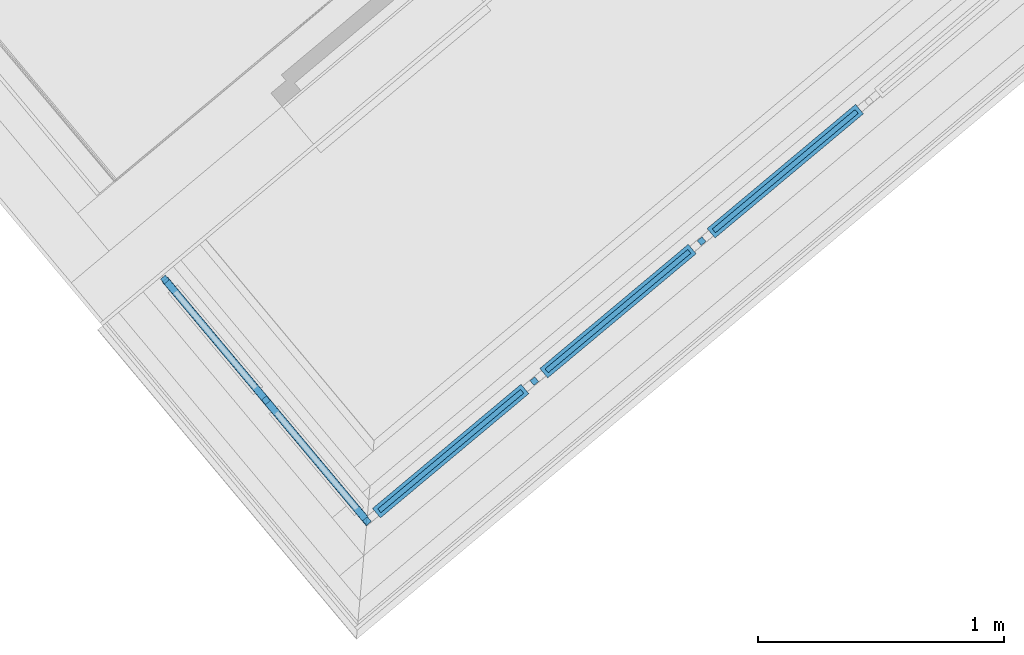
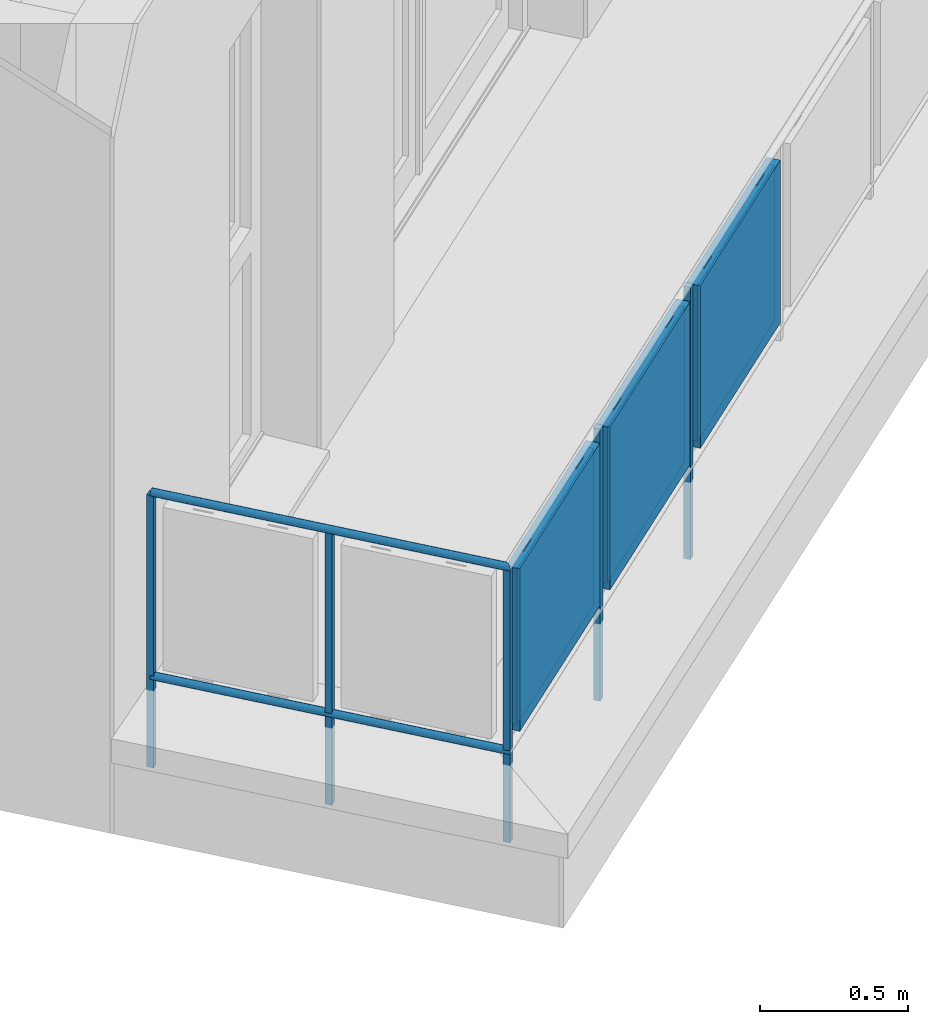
# One storey, part 33 of 50: 13 building element parts, 1 element without a shape of its own.
"""IFC4 building model written with IfcOpenShell, lengths in metres."""

from ifc_helpers import new_model, entity, si_unit, converted_unit, derived_unit, direction, frame, origin_with_axes, place, context, subcontext, project, spatial, polygons, material, type_object, element, aggregate, save


model = new_model("IFC4")

# Units and contexts
model_context = context("Model", 3, precision=1e-05, world=origin_with_axes(), true_north=direction((0.0, 1.0)))
body_context = subcontext(model_context, "Body", "Model", "MODEL_VIEW")
ifc_project = project(units=[si_unit("LENGTHUNIT", "METRE"), si_unit("AREAUNIT", "SQUARE_METRE"), si_unit("VOLUMEUNIT", "CUBIC_METRE"), converted_unit("PLANEANGLEUNIT", "DEGREE", entity("IfcPlaneAngleMeasure", 0.0174532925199), si_unit("PLANEANGLEUNIT", "RADIAN"), dimensions=[0, 0, 0, 0, 0, 0, 0]), converted_unit("TIMEUNIT", "Year", entity("IfcTimeMeasure", 31556926.0), si_unit("TIMEUNIT", "SECOND"), dimensions=[0, 0, 1, 0, 0, 0, 0]), si_unit("MASSUNIT", "GRAM", prefix="KILO"), si_unit("THERMODYNAMICTEMPERATUREUNIT", "DEGREE_CELSIUS"), si_unit("LUMINOUSINTENSITYUNIT", "LUMEN"), si_unit("ENERGYUNIT", "JOULE", prefix="MEGA"), derived_unit("THERMALCONDUCTANCEUNIT", [(si_unit("POWERUNIT", "WATT"), 1), (si_unit("LENGTHUNIT", "METRE"), -1), (si_unit("THERMODYNAMICTEMPERATUREUNIT", "KELVIN"), -1)]), derived_unit("SPECIFICHEATCAPACITYUNIT", [(si_unit("ENERGYUNIT", "JOULE"), 1), (si_unit("MASSUNIT", "GRAM", prefix="KILO"), -1), (si_unit("THERMODYNAMICTEMPERATUREUNIT", "KELVIN"), -1)]), derived_unit("MASSDENSITYUNIT", [(si_unit("MASSUNIT", "GRAM", prefix="KILO"), 1), (si_unit("VOLUMEUNIT", "CUBIC_METRE"), -1)])], contexts=[model_context])

# Site, building, storey, space
site_placement = place(None, frame((-0.00153261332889, -0.00661245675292, 0.0), z_axis=(0.0, 0.0, 1.0), x_axis=(1.0, 0.0, 0.0)))
site = spatial("IfcSite", under=ifc_project, at=site_placement, Name="Gelände", CompositionType="ELEMENT")
building_placement = place(site_placement, origin_with_axes())
building = spatial("IfcBuilding", under=site, at=building_placement, Name="Gebäude", CompositionType="ELEMENT")
storey_placement = place(building_placement, frame((0.0, 0.0, 8.66), z_axis=(0.0, 0.0, 1.0), x_axis=(1.0, 0.0, 0.0)))
storey = spatial("IfcBuildingStorey", under=building, at=storey_placement, Name="DG2", CompositionType="ELEMENT", Elevation=8.66)
space_placement = place(storey_placement, frame((8.90864671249, 17.2360299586, 0.22), z_axis=(0.0, 0.0, 1.0), x_axis=(0.766948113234, 0.641709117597, 0.0)))
space = spatial("IfcSpace", under=storey, at=space_placement, CompositionType="ELEMENT", PredefinedType="NOTDEFINED")

# Railing, building element parts
railing_type = type_object("IfcRailingType", Name="Geländerart", PredefinedType="NOTDEFINED")
railing_placement = place(space_placement, frame((-0.182063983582, 1.04564583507, 0.16), z_axis=(0.0, 0.0, 1.0), x_axis=(0.766948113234, -0.641709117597, 0.0)))
railing = element("IfcRailing", 1, at=railing_placement, inside=space, type_object=railing_type, Name="Geländer - 001", PredefinedType="NOTDEFINED")
ifc_material_1 = material(Name="Aluminium")
building_element_part_1_placement = place(railing_placement, origin_with_axes())
building_element_part_1 = element("IfcBuildingElementPart", 2, at=building_element_part_1_placement, material=ifc_material_1, Name="Aluminium", PredefinedType="NOTDEFINED", context=body_context, shape_type="Tessellation", body=[
    polygons([(-0.0399128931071, -0.0496936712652, -0.3), (-0.0207391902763, -0.0336509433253, -0.3), (-0.0207391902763, -0.0336509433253, 0.82), (-0.0399128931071, -0.0496936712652, 0.82), (-0.0559556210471, -0.0305199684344, -0.3), (-0.0367819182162, -0.0144772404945, -0.3), (-0.0367819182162, -0.0144772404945, 0.82), (-0.0559556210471, -0.0305199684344, 0.82)], [[[1, 2, 3, 4]], [[1, 5, 6, 2]], [[2, 6, 7, 3]], [[4, 3, 7, 8]], [[5, 1, 4, 8]], [[6, 5, 8, 7]]], closed=True),
])
building_element_part_2_placement = place(railing_placement, origin_with_axes())
building_element_part_2 = element("IfcBuildingElementPart", 3, at=building_element_part_2_placement, material=ifc_material_1, Name="Aluminium", PredefinedType="NOTDEFINED", context=body_context, shape_type="Tessellation", body=[
    polygons([(0.780491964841, -1.03021263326, -0.3), (0.799665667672, -1.01416990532, -0.3), (0.799665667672, -1.01416990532, 0.82), (0.780491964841, -1.03021263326, 0.82), (0.764449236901, -1.01103893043, -0.3), (0.783622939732, -0.994996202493, -0.3), (0.783622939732, -0.994996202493, 0.82), (0.764449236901, -1.01103893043, 0.82)], [[[1, 2, 3, 4]], [[1, 5, 6, 2]], [[2, 6, 7, 3]], [[4, 3, 7, 8]], [[5, 1, 4, 8]], [[6, 5, 8, 7]]], closed=True),
])
building_element_part_3_placement = place(railing_placement, origin_with_axes())
building_element_part_3 = element("IfcBuildingElementPart", 4, at=building_element_part_3_placement, material=ifc_material_1, Name="Aluminium", PredefinedType="NOTDEFINED", context=body_context, shape_type="Tessellation", body=[
    polygons([(-0.0268431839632, -0.0224598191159, 0.825), (-0.0270179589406, -0.022606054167, 0.827604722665), (0.783908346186, -0.991796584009, 0.827604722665), (0.783936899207, -0.991475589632, 0.825), (-0.0270179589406, -0.022606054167, 0.822395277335), (-0.0275369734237, -0.0230403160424, 0.81986969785), (-0.02838445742, -0.0237494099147, 0.8175), (-0.0295346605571, -0.0247117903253, 0.815358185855), (-0.0309526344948, -0.0258982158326, 0.813509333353), (-0.0325952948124, -0.0272726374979, 0.812009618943), (-0.0344127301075, -0.0287932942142, 0.810904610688), (-0.0363497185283, -0.0304139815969, 0.810227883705), (-0.0383474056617, -0.0320854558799, 0.81), (-0.0403450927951, -0.0337569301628, 0.810227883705), (-0.0422820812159, -0.0353776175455, 0.810904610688), (-0.0440995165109, -0.0368982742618, 0.812009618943), (-0.0457421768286, -0.0382726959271, 0.813509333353), (-0.0471601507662, -0.0394591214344, 0.815358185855), (-0.0483103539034, -0.040421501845, 0.8175), (-0.0491578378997, -0.0411305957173, 0.81986969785), (-0.0496768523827, -0.0415648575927, 0.822395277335), (-0.0498516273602, -0.0417110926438, 0.825), (-0.0496768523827, -0.0415648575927, 0.827604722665), (-0.0491578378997, -0.0411305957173, 0.83013030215), (-0.0483103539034, -0.040421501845, 0.8325), (-0.0471601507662, -0.0394591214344, 0.834641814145), (-0.0457421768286, -0.0382726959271, 0.836490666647), (-0.0440995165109, -0.0368982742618, 0.837990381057), (-0.0422820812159, -0.0353776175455, 0.839095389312), (-0.0403450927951, -0.0337569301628, 0.839772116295), (-0.0383474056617, -0.0320854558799, 0.84), (-0.0363497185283, -0.0304139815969, 0.839772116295), (-0.0344127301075, -0.0287932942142, 0.839095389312), (-0.0325952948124, -0.0272726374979, 0.837990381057), (-0.0309526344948, -0.0258982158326, 0.836490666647), (-0.0295346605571, -0.0247117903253, 0.834641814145), (-0.02838445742, -0.0237494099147, 0.8325), (-0.0275369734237, -0.0230403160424, 0.83013030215), (0.783823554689, -0.992749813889, 0.83013030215), (0.783685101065, -0.994306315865, 0.8325), (0.783497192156, -0.99641879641, 0.834641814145), (0.78326553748, -0.999023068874, 0.836490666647), (0.782997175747, -1.00204000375, 0.837990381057), (0.782700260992, -1.00537793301, 0.839095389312), (0.782383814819, -1.00893543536, 0.839772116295), (0.782057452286, -1.01260441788, 0.84), (0.781731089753, -1.0162734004, 0.839772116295), (0.781414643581, -1.01983090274, 0.839095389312), (0.781117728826, -1.023168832, 0.837990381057), (0.780849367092, -1.02618576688, 0.836490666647), (0.780617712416, -1.02879003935, 0.834641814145), (0.780429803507, -1.03090251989, 0.8325), (0.780291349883, -1.03245902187, 0.83013030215), (0.780206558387, -1.03341225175, 0.827604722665), (0.780178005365, -1.03373324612, 0.825), (0.780206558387, -1.03341225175, 0.822395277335), (0.780291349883, -1.03245902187, 0.81986969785), (0.780429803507, -1.03090251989, 0.8175), (0.780617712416, -1.02879003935, 0.815358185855), (0.780849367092, -1.02618576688, 0.813509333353), (0.781117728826, -1.023168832, 0.812009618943), (0.781414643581, -1.01983090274, 0.810904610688), (0.781731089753, -1.0162734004, 0.810227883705), (0.782057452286, -1.01260441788, 0.81), (0.782383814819, -1.00893543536, 0.810227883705), (0.782700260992, -1.00537793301, 0.810904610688), (0.782997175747, -1.00204000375, 0.812009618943), (0.78326553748, -0.999023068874, 0.813509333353), (0.783497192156, -0.99641879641, 0.815358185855), (0.783685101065, -0.994306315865, 0.8175), (0.783823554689, -0.992749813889, 0.81986969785), (0.783908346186, -0.991796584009, 0.822395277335)], [[[1, 2, 3, 4]], [[1, 5, 6, 7, 8, 9, 10, 11, 12, 13, 14, 15, 16, 17, 18, 19, 20, 21, 22, 23, 24, 25, 26, 27, 28, 29, 30, 31, 32, 33, 34, 35, 36, 37, 38, 2]], [[2, 38, 39, 3]], [[4, 3, 39, 40, 41, 42, 43, 44, 45, 46, 47, 48, 49, 50, 51, 52, 53, 54, 55, 56, 57, 58, 59, 60, 61, 62, 63, 64, 65, 66, 67, 68, 69, 70, 71, 72]], [[5, 1, 4, 72]], [[6, 5, 72, 71]], [[7, 6, 71, 70]], [[8, 7, 70, 69]], [[9, 8, 69, 68]], [[10, 9, 68, 67]], [[11, 10, 67, 66]], [[12, 11, 66, 65]], [[13, 12, 65, 64]], [[14, 13, 64, 63]], [[15, 14, 63, 62]], [[16, 15, 62, 61]], [[17, 16, 61, 60]], [[18, 17, 60, 59]], [[19, 18, 59, 58]], [[20, 19, 58, 57]], [[21, 20, 57, 56]], [[22, 21, 56, 55]], [[23, 22, 55, 54]], [[24, 23, 54, 53]], [[25, 24, 53, 52]], [[26, 25, 52, 51]], [[27, 26, 51, 50]], [[28, 27, 50, 49]], [[29, 28, 49, 48]], [[30, 29, 48, 47]], [[31, 30, 47, 46]], [[32, 31, 46, 45]], [[33, 32, 45, 44]], [[34, 33, 44, 43]], [[35, 34, 43, 42]], [[36, 35, 42, 41]], [[37, 36, 41, 40]], [[38, 37, 40, 39]]], closed=True),
])
building_element_part_4_placement = place(railing_placement, origin_with_axes())
building_element_part_4 = element("IfcBuildingElementPart", 5, at=building_element_part_4_placement, material=ifc_material_1, Name="Aluminium", PredefinedType="NOTDEFINED", context=body_context, shape_type="Tessellation", body=[
    polygons([(-0.0268431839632, -0.0224598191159, 0.07), (-0.0270179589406, -0.022606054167, 0.072604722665), (0.783908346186, -0.991796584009, 0.072604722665), (0.783936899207, -0.991475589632, 0.07), (-0.0270179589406, -0.022606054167, 0.067395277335), (-0.0275369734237, -0.0230403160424, 0.0648696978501), (-0.02838445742, -0.0237494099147, 0.0625), (-0.0295346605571, -0.0247117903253, 0.0603581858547), (-0.0309526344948, -0.0258982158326, 0.0585093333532), (-0.0325952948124, -0.0272726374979, 0.0570096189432), (-0.0344127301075, -0.0287932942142, 0.0559046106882), (-0.0363497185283, -0.0304139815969, 0.0552278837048), (-0.0383474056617, -0.0320854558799, 0.055), (-0.0403450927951, -0.0337569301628, 0.0552278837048), (-0.0422820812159, -0.0353776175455, 0.0559046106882), (-0.0440995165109, -0.0368982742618, 0.0570096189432), (-0.0457421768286, -0.0382726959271, 0.0585093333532), (-0.0471601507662, -0.0394591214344, 0.0603581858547), (-0.0483103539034, -0.040421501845, 0.0625), (-0.0491578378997, -0.0411305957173, 0.0648696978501), (-0.0496768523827, -0.0415648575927, 0.067395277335), (-0.0498516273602, -0.0417110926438, 0.07), (-0.0496768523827, -0.0415648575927, 0.072604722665), (-0.0491578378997, -0.0411305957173, 0.0751303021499), (-0.0483103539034, -0.040421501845, 0.0775), (-0.0471601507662, -0.0394591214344, 0.0796418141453), (-0.0457421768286, -0.0382726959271, 0.0814906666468), (-0.0440995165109, -0.0368982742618, 0.0829903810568), (-0.0422820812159, -0.0353776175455, 0.0840953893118), (-0.0403450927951, -0.0337569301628, 0.0847721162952), (-0.0383474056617, -0.0320854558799, 0.085), (-0.0363497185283, -0.0304139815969, 0.0847721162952), (-0.0344127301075, -0.0287932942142, 0.0840953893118), (-0.0325952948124, -0.0272726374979, 0.0829903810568), (-0.0309526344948, -0.0258982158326, 0.0814906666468), (-0.0295346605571, -0.0247117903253, 0.0796418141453), (-0.02838445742, -0.0237494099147, 0.0775), (-0.0275369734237, -0.0230403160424, 0.0751303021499), (0.783823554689, -0.992749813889, 0.0751303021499), (0.783685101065, -0.994306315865, 0.0775), (0.783497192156, -0.99641879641, 0.0796418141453), (0.78326553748, -0.999023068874, 0.0814906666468), (0.782997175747, -1.00204000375, 0.0829903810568), (0.782700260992, -1.00537793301, 0.0840953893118), (0.782383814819, -1.00893543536, 0.0847721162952), (0.782057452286, -1.01260441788, 0.085), (0.781731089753, -1.0162734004, 0.0847721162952), (0.781414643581, -1.01983090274, 0.0840953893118), (0.781117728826, -1.023168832, 0.0829903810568), (0.780849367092, -1.02618576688, 0.0814906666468), (0.780617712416, -1.02879003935, 0.0796418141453), (0.780429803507, -1.03090251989, 0.0775), (0.780291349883, -1.03245902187, 0.0751303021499), (0.780206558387, -1.03341225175, 0.072604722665), (0.780178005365, -1.03373324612, 0.07), (0.780206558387, -1.03341225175, 0.067395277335), (0.780291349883, -1.03245902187, 0.0648696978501), (0.780429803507, -1.03090251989, 0.0625), (0.780617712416, -1.02879003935, 0.0603581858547), (0.780849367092, -1.02618576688, 0.0585093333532), (0.781117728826, -1.023168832, 0.0570096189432), (0.781414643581, -1.01983090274, 0.0559046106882), (0.781731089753, -1.0162734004, 0.0552278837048), (0.782057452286, -1.01260441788, 0.055), (0.782383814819, -1.00893543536, 0.0552278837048), (0.782700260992, -1.00537793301, 0.0559046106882), (0.782997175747, -1.00204000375, 0.0570096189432), (0.78326553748, -0.999023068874, 0.0585093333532), (0.783497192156, -0.99641879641, 0.0603581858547), (0.783685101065, -0.994306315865, 0.0625), (0.783823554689, -0.992749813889, 0.0648696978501), (0.783908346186, -0.991796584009, 0.067395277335)], [[[1, 2, 3, 4]], [[1, 5, 6, 7, 8, 9, 10, 11, 12, 13, 14, 15, 16, 17, 18, 19, 20, 21, 22, 23, 24, 25, 26, 27, 28, 29, 30, 31, 32, 33, 34, 35, 36, 37, 38, 2]], [[2, 38, 39, 3]], [[4, 3, 39, 40, 41, 42, 43, 44, 45, 46, 47, 48, 49, 50, 51, 52, 53, 54, 55, 56, 57, 58, 59, 60, 61, 62, 63, 64, 65, 66, 67, 68, 69, 70, 71, 72]], [[5, 1, 4, 72]], [[6, 5, 72, 71]], [[7, 6, 71, 70]], [[8, 7, 70, 69]], [[9, 8, 69, 68]], [[10, 9, 68, 67]], [[11, 10, 67, 66]], [[12, 11, 66, 65]], [[13, 12, 65, 64]], [[14, 13, 64, 63]], [[15, 14, 63, 62]], [[16, 15, 62, 61]], [[17, 16, 61, 60]], [[18, 17, 60, 59]], [[19, 18, 59, 58]], [[20, 19, 58, 57]], [[21, 20, 57, 56]], [[22, 21, 56, 55]], [[23, 22, 55, 54]], [[24, 23, 54, 53]], [[25, 24, 53, 52]], [[26, 25, 52, 51]], [[27, 26, 51, 50]], [[28, 27, 50, 49]], [[29, 28, 49, 48]], [[30, 29, 48, 47]], [[31, 30, 47, 46]], [[32, 31, 46, 45]], [[33, 32, 45, 44]], [[34, 33, 44, 43]], [[35, 34, 43, 42]], [[36, 35, 42, 41]], [[37, 36, 41, 40]], [[38, 37, 40, 39]]], closed=True),
])
building_element_part_5_placement = place(railing_placement, origin_with_axes())
building_element_part_5 = element("IfcBuildingElementPart", 6, at=building_element_part_5_placement, material=ifc_material_1, Name="Aluminium", PredefinedType="NOTDEFINED", context=body_context, shape_type="Tessellation", body=[
    polygons([(0.370289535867, -0.539953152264, -0.3), (0.389463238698, -0.523910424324, -0.3), (0.389463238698, -0.523910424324, 0.82), (0.370289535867, -0.539953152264, 0.82), (0.354246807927, -0.520779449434, -0.3), (0.373420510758, -0.504736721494, -0.3), (0.373420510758, -0.504736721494, 0.82), (0.354246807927, -0.520779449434, 0.82)], [[[1, 2, 3, 4]], [[1, 5, 6, 2]], [[2, 6, 7, 3]], [[4, 3, 7, 8]], [[5, 1, 4, 8]], [[6, 5, 8, 7]]], closed=True),
])
ifc_material_2 = material(Name="Profilit")
building_element_part_6_placement = place(railing_placement, origin_with_axes())
building_element_part_6 = element("IfcBuildingElementPart", 7, at=building_element_part_6_placement, material=ifc_material_2, Name="Profilit", PredefinedType="NOTDEFINED", context=body_context, shape_type="Tessellation", body=[
    polygons([(1.40482811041, -0.478586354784, 0.135), (0.82549641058, -0.963227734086, 0.135), (0.82549641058, -0.963227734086, 0.775), (1.40482811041, -0.478586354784, 0.775), (0.838329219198, -0.978567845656, 0.135), (1.41766091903, -0.493926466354, 0.135), (0.838329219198, -0.978567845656, 0.775), (1.41766091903, -0.493926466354, 0.775)], [[[1, 2, 3, 4]], [[5, 2, 1, 6]], [[7, 3, 2, 5]], [[4, 3, 7, 8]], [[1, 4, 8, 6]], [[7, 5, 6, 8]]], closed=True),
])
building_element_part_7_placement = place(railing_placement, origin_with_axes())
building_element_part_7 = element("IfcBuildingElementPart", 8, at=building_element_part_7_placement, material=ifc_material_1, Name="Aluminium", PredefinedType="NOTDEFINED", context=body_context, shape_type="Tessellation", body=[
    polygons([(0.895504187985, -0.9144408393, 0.12), (0.949194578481, -0.869526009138, 0.12), (0.949194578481, -0.869526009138, 0.095), (0.895504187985, -0.9144408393, 0.095), (0.89871239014, -0.918275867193, 0.12), (0.952402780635, -0.873361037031, 0.12), (0.952402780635, -0.873361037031, 0.095), (0.89871239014, -0.918275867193, 0.095)], [[[1, 2, 3, 4]], [[5, 6, 2, 1]], [[2, 6, 7, 3]], [[4, 3, 7, 8]], [[1, 4, 8, 5]], [[8, 7, 6, 5]]], closed=True),
    polygons([(1.29075454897, -0.583793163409, 0.12), (1.34444493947, -0.538878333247, 0.12), (1.34444493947, -0.538878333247, 0.095), (1.29075454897, -0.583793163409, 0.095), (1.29396275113, -0.587628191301, 0.12), (1.34765314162, -0.54271336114, 0.12), (1.34765314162, -0.54271336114, 0.095), (1.29396275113, -0.587628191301, 0.095)], [[[1, 2, 3, 4]], [[5, 6, 2, 1]], [[2, 6, 7, 3]], [[4, 3, 7, 8]], [[1, 4, 8, 5]], [[8, 7, 6, 5]]], closed=True),
    polygons([(1.34444493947, -0.538878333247, 0.79), (1.29075454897, -0.583793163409, 0.79), (1.29075454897, -0.583793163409, 0.795), (1.34444493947, -0.538878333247, 0.795), (1.34765314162, -0.54271336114, 0.79), (1.29396275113, -0.587628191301, 0.79), (1.29396275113, -0.587628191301, 0.795), (1.34765314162, -0.54271336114, 0.795)], [[[1, 2, 3, 4]], [[5, 6, 2, 1]], [[2, 6, 7, 3]], [[4, 3, 7, 8]], [[1, 4, 8, 5]], [[8, 7, 6, 5]]], closed=True),
    polygons([(0.949194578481, -0.869526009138, 0.79), (0.895504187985, -0.9144408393, 0.79), (0.895504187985, -0.9144408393, 0.795), (0.949194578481, -0.869526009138, 0.795), (0.952402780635, -0.873361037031, 0.79), (0.89871239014, -0.918275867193, 0.79), (0.89871239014, -0.918275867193, 0.795), (0.952402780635, -0.873361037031, 0.795)], [[[1, 2, 3, 4]], [[5, 6, 2, 1]], [[2, 6, 7, 3]], [[4, 3, 7, 8]], [[1, 4, 8, 5]], [[8, 7, 6, 5]]], closed=True),
    polygons([(0.836448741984, -0.999697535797, 0.12), (0.80436672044, -0.961347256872, 0.12), (1.40670858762, -0.457456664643, 0.12), (1.43879060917, -0.495806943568, 0.12), (0.851788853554, -0.986864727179, 0.14), (0.842164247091, -0.975359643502, 0.14), (0.838329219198, -0.978567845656, 0.135), (0.82549641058, -0.963227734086, 0.135), (0.829331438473, -0.960019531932, 0.14), (0.81970683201, -0.948514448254, 0.14), (1.39136847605, -0.470289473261, 0.14), (1.39136847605, -0.470289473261, 0.77), (0.81970683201, -0.948514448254, 0.77), (0.81970683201, -0.948514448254, 0.14), (0.80436672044, -0.961347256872, 0.12), (0.80436672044, -0.961347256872, 0.79), (1.40670858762, -0.457456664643, 0.79), (1.43879060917, -0.495806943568, 0.79), (0.836448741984, -0.999697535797, 0.79), (0.836448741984, -0.999697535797, 0.12), (0.851788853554, -0.986864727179, 0.14), (0.851788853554, -0.986864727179, 0.77), (1.4234504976, -0.508639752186, 0.77), (1.4234504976, -0.508639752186, 0.14), (1.41382589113, -0.497134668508, 0.14), (1.41382589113, -0.497134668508, 0.77), (0.842164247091, -0.975359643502, 0.77), (0.842164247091, -0.975359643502, 0.14), (0.838329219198, -0.978567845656, 0.135), (0.838329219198, -0.978567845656, 0.775), (1.41766091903, -0.493926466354, 0.775), (1.41766091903, -0.493926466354, 0.135), (1.40482811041, -0.478586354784, 0.135), (1.40482811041, -0.478586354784, 0.775), (0.82549641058, -0.963227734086, 0.775), (0.82549641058, -0.963227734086, 0.135), (0.829331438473, -0.960019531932, 0.14), (0.829331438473, -0.960019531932, 0.77), (1.40099308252, -0.481794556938, 0.77), (1.40099308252, -0.481794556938, 0.14)], [[[1, 2, 3, 4]], [[1, 5, 6, 7, 8, 9, 10, 2]], [[2, 10, 11, 12, 13, 14, 15, 16, 17, 3]], [[4, 3, 17, 18]], [[5, 1, 4, 18, 19, 20, 21, 22, 23, 24]], [[6, 5, 24, 25]], [[7, 6, 25, 26, 27, 28, 29, 30, 31, 32]], [[8, 7, 32, 33]], [[9, 8, 33, 34, 35, 36, 37, 38, 39, 40]], [[10, 9, 40, 11]], [[11, 40, 39, 12]], [[12, 39, 38, 13]], [[13, 38, 37, 14]], [[20, 15, 14, 37, 36, 29, 28, 21]], [[19, 16, 15, 20]], [[18, 17, 16, 19]], [[27, 22, 21, 28]], [[26, 23, 22, 27]], [[25, 24, 23, 26]], [[35, 30, 29, 36]], [[34, 31, 30, 35]], [[33, 32, 31, 34]]], closed=True),
])
building_element_part_8_placement = place(railing_placement, origin_with_axes())
building_element_part_8 = element("IfcBuildingElementPart", 9, at=building_element_part_8_placement, material=ifc_material_1, Name="Aluminium", PredefinedType="NOTDEFINED", context=body_context, shape_type="Tessellation", body=[
    polygons([(1.47870795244, -0.446116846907, -0.3), (1.46266694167, -0.426941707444, -0.3), (1.46266694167, -0.426941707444, 0.82), (1.47870795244, -0.446116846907, 0.82), (1.45953281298, -0.462157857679, -0.3), (1.4434918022, -0.442982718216, -0.3), (1.4434918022, -0.442982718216, 0.82), (1.45953281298, -0.462157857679, 0.82)], [[[1, 2, 3, 4]], [[1, 5, 6, 2]], [[2, 6, 7, 3]], [[4, 3, 7, 8]], [[5, 1, 4, 8]], [[6, 5, 8, 7]]], closed=True),
])
building_element_part_9_placement = place(railing_placement, origin_with_axes())
building_element_part_9 = element("IfcBuildingElementPart", 10, at=building_element_part_9_placement, material=ifc_material_2, Name="Profilit", PredefinedType="NOTDEFINED", context=body_context, shape_type="Tessellation", body=[
    polygons([(2.08387053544, 0.0894682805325, 0.135), (1.50453883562, -0.39517309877, 0.135), (1.50453883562, -0.39517309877, 0.775), (2.08387053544, 0.0894682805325, 0.775), (1.51737164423, -0.41051321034, 0.135), (2.09670334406, 0.0741281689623, 0.135), (1.51737164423, -0.41051321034, 0.775), (2.09670334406, 0.0741281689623, 0.775)], [[[1, 2, 3, 4]], [[5, 2, 1, 6]], [[7, 3, 2, 5]], [[4, 3, 7, 8]], [[1, 4, 8, 6]], [[7, 5, 6, 8]]], closed=True),
])
building_element_part_10_placement = place(railing_placement, origin_with_axes())
building_element_part_10 = element("IfcBuildingElementPart", 11, at=building_element_part_10_placement, material=ifc_material_1, Name="Aluminium", PredefinedType="NOTDEFINED", context=body_context, shape_type="Tessellation", body=[
    polygons([(1.57454661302, -0.346386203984, 0.12), (1.62823700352, -0.301471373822, 0.12), (1.62823700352, -0.301471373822, 0.095), (1.57454661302, -0.346386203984, 0.095), (1.57775481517, -0.350221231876, 0.12), (1.63144520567, -0.305306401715, 0.12), (1.63144520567, -0.305306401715, 0.095), (1.57775481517, -0.350221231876, 0.095)], [[[1, 2, 3, 4]], [[5, 6, 2, 1]], [[2, 6, 7, 3]], [[4, 3, 7, 8]], [[1, 4, 8, 5]], [[8, 7, 6, 5]]], closed=True),
    polygons([(1.96979697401, -0.0157385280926, 0.12), (2.0234873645, 0.0291763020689, 0.12), (2.0234873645, 0.0291763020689, 0.095), (1.96979697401, -0.0157385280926, 0.095), (1.97300517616, -0.0195735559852, 0.12), (2.02669556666, 0.0253412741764, 0.12), (2.02669556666, 0.0253412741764, 0.095), (1.97300517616, -0.0195735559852, 0.095)], [[[1, 2, 3, 4]], [[5, 6, 2, 1]], [[2, 6, 7, 3]], [[4, 3, 7, 8]], [[1, 4, 8, 5]], [[8, 7, 6, 5]]], closed=True),
    polygons([(2.0234873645, 0.0291763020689, 0.79), (1.96979697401, -0.0157385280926, 0.79), (1.96979697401, -0.0157385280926, 0.795), (2.0234873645, 0.0291763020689, 0.795), (2.02669556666, 0.0253412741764, 0.79), (1.97300517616, -0.0195735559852, 0.79), (1.97300517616, -0.0195735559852, 0.795), (2.02669556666, 0.0253412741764, 0.795)], [[[1, 2, 3, 4]], [[5, 6, 2, 1]], [[2, 6, 7, 3]], [[4, 3, 7, 8]], [[1, 4, 8, 5]], [[8, 7, 6, 5]]], closed=True),
    polygons([(1.62823700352, -0.301471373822, 0.79), (1.57454661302, -0.346386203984, 0.79), (1.57454661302, -0.346386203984, 0.795), (1.62823700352, -0.301471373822, 0.795), (1.63144520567, -0.305306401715, 0.79), (1.57775481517, -0.350221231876, 0.79), (1.57775481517, -0.350221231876, 0.795), (1.63144520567, -0.305306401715, 0.795)], [[[1, 2, 3, 4]], [[5, 6, 2, 1]], [[2, 6, 7, 3]], [[4, 3, 7, 8]], [[1, 4, 8, 5]], [[8, 7, 6, 5]]], closed=True),
    polygons([(1.51549116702, -0.431642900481, 0.12), (1.48340914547, -0.393292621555, 0.12), (2.08575101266, 0.110597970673, 0.12), (2.1178330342, 0.0722476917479, 0.12), (1.53083127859, -0.418810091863, 0.14), (1.52120667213, -0.407305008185, 0.14), (1.51737164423, -0.41051321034, 0.135), (1.50453883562, -0.39517309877, 0.135), (1.50837386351, -0.391964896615, 0.14), (1.49874925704, -0.380459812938, 0.14), (2.07041090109, 0.0977651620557, 0.14), (2.07041090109, 0.0977651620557, 0.77), (1.49874925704, -0.380459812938, 0.77), (1.49874925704, -0.380459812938, 0.14), (1.48340914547, -0.393292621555, 0.12), (1.48340914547, -0.393292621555, 0.79), (2.08575101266, 0.110597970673, 0.79), (2.1178330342, 0.0722476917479, 0.79), (1.51549116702, -0.431642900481, 0.79), (1.51549116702, -0.431642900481, 0.12), (1.53083127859, -0.418810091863, 0.14), (1.53083127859, -0.418810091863, 0.77), (2.10249292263, 0.0594148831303, 0.77), (2.10249292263, 0.0594148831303, 0.14), (2.09286831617, 0.0709199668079, 0.14), (2.09286831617, 0.0709199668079, 0.77), (1.52120667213, -0.407305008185, 0.77), (1.52120667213, -0.407305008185, 0.14), (1.51737164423, -0.41051321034, 0.135), (1.51737164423, -0.41051321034, 0.775), (2.09670334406, 0.0741281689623, 0.775), (2.09670334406, 0.0741281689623, 0.135), (2.08387053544, 0.0894682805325, 0.135), (2.08387053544, 0.0894682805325, 0.775), (1.50453883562, -0.39517309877, 0.775), (1.50453883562, -0.39517309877, 0.135), (1.50837386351, -0.391964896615, 0.14), (1.50837386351, -0.391964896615, 0.77), (2.08003550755, 0.0862600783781, 0.77), (2.08003550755, 0.0862600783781, 0.14)], [[[1, 2, 3, 4]], [[1, 5, 6, 7, 8, 9, 10, 2]], [[2, 10, 11, 12, 13, 14, 15, 16, 17, 3]], [[4, 3, 17, 18]], [[5, 1, 4, 18, 19, 20, 21, 22, 23, 24]], [[6, 5, 24, 25]], [[7, 6, 25, 26, 27, 28, 29, 30, 31, 32]], [[8, 7, 32, 33]], [[9, 8, 33, 34, 35, 36, 37, 38, 39, 40]], [[10, 9, 40, 11]], [[11, 40, 39, 12]], [[12, 39, 38, 13]], [[13, 38, 37, 14]], [[20, 15, 14, 37, 36, 29, 28, 21]], [[19, 16, 15, 20]], [[18, 17, 16, 19]], [[27, 22, 21, 28]], [[26, 23, 22, 27]], [[25, 24, 23, 26]], [[35, 30, 29, 36]], [[34, 31, 30, 35]], [[33, 32, 31, 34]]], closed=True),
])
building_element_part_11_placement = place(railing_placement, origin_with_axes())
building_element_part_11 = element("IfcBuildingElementPart", 12, at=building_element_part_11_placement, material=ifc_material_1, Name="Aluminium", PredefinedType="NOTDEFINED", context=body_context, shape_type="Tessellation", body=[
    polygons([(2.15775037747, 0.121937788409, -0.3), (2.1417093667, 0.141112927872, -0.3), (2.1417093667, 0.141112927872, 0.82), (2.15775037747, 0.121937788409, 0.82), (2.13857523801, 0.105896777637, -0.3), (2.12253422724, 0.1250719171, -0.3), (2.12253422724, 0.1250719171, 0.82), (2.13857523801, 0.105896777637, 0.82)], [[[1, 2, 3, 4]], [[1, 5, 6, 2]], [[2, 6, 7, 3]], [[4, 3, 7, 8]], [[5, 1, 4, 8]], [[6, 5, 8, 7]]], closed=True),
])
building_element_part_12_placement = place(railing_placement, origin_with_axes())
building_element_part_12 = element("IfcBuildingElementPart", 13, at=building_element_part_12_placement, material=ifc_material_2, Name="Profilit", PredefinedType="NOTDEFINED", context=body_context, shape_type="Tessellation", body=[
    polygons([(2.76291296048, 0.657522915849, 0.135), (2.18358126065, 0.172881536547, 0.135), (2.18358126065, 0.172881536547, 0.775), (2.76291296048, 0.657522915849, 0.775), (2.19641406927, 0.157541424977, 0.135), (2.7757457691, 0.642182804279, 0.135), (2.19641406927, 0.157541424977, 0.775), (2.7757457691, 0.642182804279, 0.775)], [[[1, 2, 3, 4]], [[5, 2, 1, 6]], [[7, 3, 2, 5]], [[4, 3, 7, 8]], [[1, 4, 8, 6]], [[7, 5, 6, 8]]], closed=True),
])
building_element_part_13_placement = place(railing_placement, origin_with_axes())
building_element_part_13 = element("IfcBuildingElementPart", 14, at=building_element_part_13_placement, material=ifc_material_1, Name="Aluminium", PredefinedType="NOTDEFINED", context=body_context, shape_type="Tessellation", body=[
    polygons([(2.25358903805, 0.221668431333, 0.12), (2.30727942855, 0.266583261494, 0.12), (2.30727942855, 0.266583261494, 0.095), (2.25358903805, 0.221668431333, 0.095), (2.25679724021, 0.21783340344, 0.12), (2.3104876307, 0.262748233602, 0.12), (2.3104876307, 0.262748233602, 0.095), (2.25679724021, 0.21783340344, 0.095)], [[[1, 2, 3, 4]], [[5, 6, 2, 1]], [[2, 6, 7, 3]], [[4, 3, 7, 8]], [[1, 4, 8, 5]], [[8, 7, 6, 5]]], closed=True),
    polygons([(2.64883939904, 0.552316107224, 0.12), (2.70252978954, 0.597230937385, 0.12), (2.70252978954, 0.597230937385, 0.095), (2.64883939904, 0.552316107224, 0.095), (2.6520476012, 0.548481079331, 0.12), (2.70573799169, 0.593395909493, 0.12), (2.70573799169, 0.593395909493, 0.095), (2.6520476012, 0.548481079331, 0.095)], [[[1, 2, 3, 4]], [[5, 6, 2, 1]], [[2, 6, 7, 3]], [[4, 3, 7, 8]], [[1, 4, 8, 5]], [[8, 7, 6, 5]]], closed=True),
    polygons([(2.70252978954, 0.597230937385, 0.79), (2.64883939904, 0.552316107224, 0.79), (2.64883939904, 0.552316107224, 0.795), (2.70252978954, 0.597230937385, 0.795), (2.70573799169, 0.593395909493, 0.79), (2.6520476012, 0.548481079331, 0.79), (2.6520476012, 0.548481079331, 0.795), (2.70573799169, 0.593395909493, 0.795)], [[[1, 2, 3, 4]], [[5, 6, 2, 1]], [[2, 6, 7, 3]], [[4, 3, 7, 8]], [[1, 4, 8, 5]], [[8, 7, 6, 5]]], closed=True),
    polygons([(2.30727942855, 0.266583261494, 0.79), (2.25358903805, 0.221668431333, 0.79), (2.25358903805, 0.221668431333, 0.795), (2.30727942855, 0.266583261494, 0.795), (2.3104876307, 0.262748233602, 0.79), (2.25679724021, 0.21783340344, 0.79), (2.25679724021, 0.21783340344, 0.795), (2.3104876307, 0.262748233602, 0.795)], [[[1, 2, 3, 4]], [[5, 6, 2, 1]], [[2, 6, 7, 3]], [[4, 3, 7, 8]], [[1, 4, 8, 5]], [[8, 7, 6, 5]]], closed=True),
    polygons([(2.19453359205, 0.136411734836, 0.12), (2.16245157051, 0.174762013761, 0.12), (2.76479343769, 0.67865260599, 0.12), (2.79687545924, 0.640302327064, 0.12), (2.20987370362, 0.149244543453, 0.14), (2.20024909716, 0.160749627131, 0.14), (2.19641406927, 0.157541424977, 0.135), (2.18358126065, 0.172881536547, 0.135), (2.18741628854, 0.176089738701, 0.14), (2.17779168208, 0.187594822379, 0.14), (2.74945332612, 0.665819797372, 0.14), (2.74945332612, 0.665819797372, 0.77), (2.17779168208, 0.187594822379, 0.77), (2.17779168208, 0.187594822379, 0.14), (2.16245157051, 0.174762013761, 0.12), (2.16245157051, 0.174762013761, 0.79), (2.76479343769, 0.67865260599, 0.79), (2.79687545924, 0.640302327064, 0.79), (2.19453359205, 0.136411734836, 0.79), (2.19453359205, 0.136411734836, 0.12), (2.20987370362, 0.149244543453, 0.14), (2.20987370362, 0.149244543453, 0.77), (2.78153534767, 0.627469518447, 0.77), (2.78153534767, 0.627469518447, 0.14), (2.7719107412, 0.638974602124, 0.14), (2.7719107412, 0.638974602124, 0.77), (2.20024909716, 0.160749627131, 0.77), (2.20024909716, 0.160749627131, 0.14), (2.19641406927, 0.157541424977, 0.135), (2.19641406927, 0.157541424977, 0.775), (2.7757457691, 0.642182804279, 0.775), (2.7757457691, 0.642182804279, 0.135), (2.76291296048, 0.657522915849, 0.135), (2.76291296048, 0.657522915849, 0.775), (2.18358126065, 0.172881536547, 0.775), (2.18358126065, 0.172881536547, 0.135), (2.18741628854, 0.176089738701, 0.14), (2.18741628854, 0.176089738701, 0.77), (2.75907793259, 0.654314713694, 0.77), (2.75907793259, 0.654314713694, 0.14)], [[[1, 2, 3, 4]], [[1, 5, 6, 7, 8, 9, 10, 2]], [[2, 10, 11, 12, 13, 14, 15, 16, 17, 3]], [[4, 3, 17, 18]], [[5, 1, 4, 18, 19, 20, 21, 22, 23, 24]], [[6, 5, 24, 25]], [[7, 6, 25, 26, 27, 28, 29, 30, 31, 32]], [[8, 7, 32, 33]], [[9, 8, 33, 34, 35, 36, 37, 38, 39, 40]], [[10, 9, 40, 11]], [[11, 40, 39, 12]], [[12, 39, 38, 13]], [[13, 38, 37, 14]], [[20, 15, 14, 37, 36, 29, 28, 21]], [[19, 16, 15, 20]], [[18, 17, 16, 19]], [[27, 22, 21, 28]], [[26, 23, 22, 27]], [[25, 24, 23, 26]], [[35, 30, 29, 36]], [[34, 31, 30, 35]], [[33, 32, 31, 34]]], closed=True),
])
aggregate(railing, [building_element_part_1, building_element_part_2, building_element_part_3, building_element_part_4, building_element_part_5, building_element_part_6, building_element_part_7, building_element_part_8, building_element_part_9, building_element_part_10, building_element_part_11, building_element_part_12, building_element_part_13])

save(model, "model.ifc")
